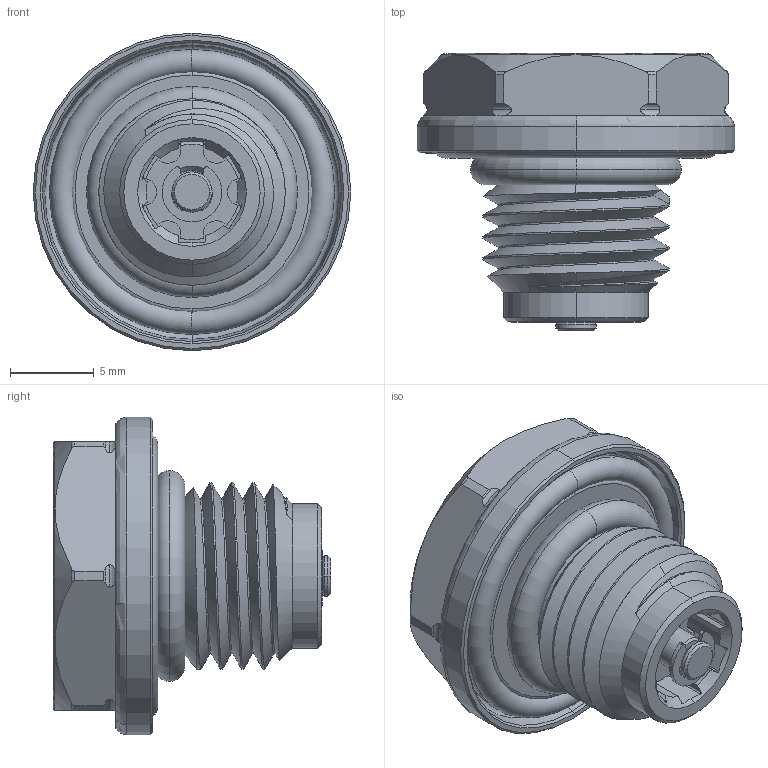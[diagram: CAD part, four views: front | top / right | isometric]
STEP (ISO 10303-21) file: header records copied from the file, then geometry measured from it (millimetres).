
FILE_DESCRIPTION (( 'STEP AP214' ), '1' );
FILE_NAME ('PRV-TrueDualSeal-0B_20150514a.STEP', '2015-05-14T17:57:36', ( '' ), ( '' ), 'SwSTEP 2.0', 'SolidWorks 2014', '' );
FILE_SCHEMA (( 'AUTOMOTIVE_DESIGN' ));
Length unit declared in the file: millimetre
Products named in the file (1): PRV-TrueDualSeal-0B_20150514a
Bounding box: 18.92 x 16.52 x 18.92 mm (x, y, z)
Surface area: 2063 mm2 (no closed solid volume)
Topology: 0 solids, 10 shells, 230 faces, 714 edges, 483 vertices
Faces by surface type: cylinder 68, plane 55, torus 42, cone 40, bspline 25
Entity records: 20570 total; most frequent: CARTESIAN_POINT 12396, ORIENTED_EDGE 1204, DIRECTION 1019, EDGE_CURVE 714, VERTEX_POINT 483, AXIS2_PLACEMENT_3D 426, B_SPLINE_CURVE_WITH_KNOTS 271, EDGE_LOOP 251
